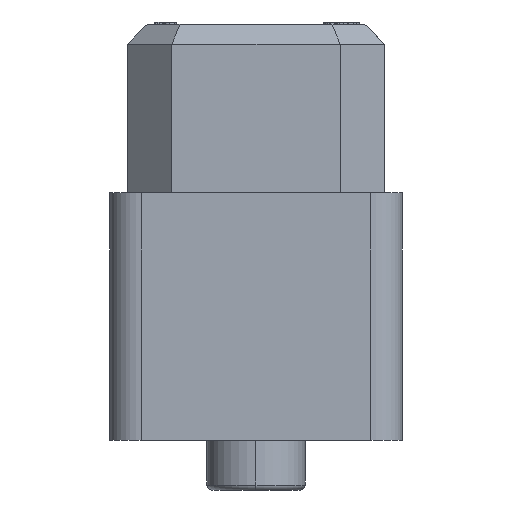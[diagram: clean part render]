
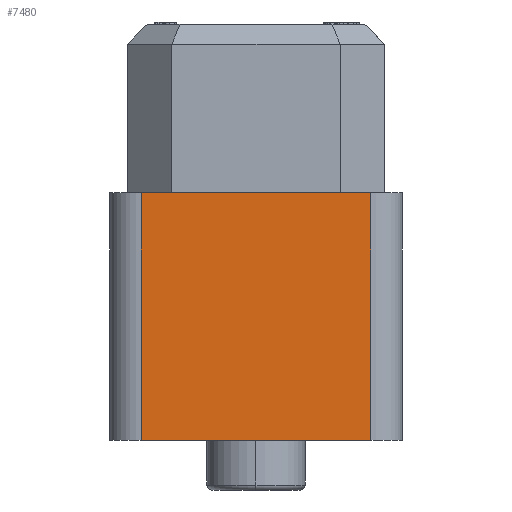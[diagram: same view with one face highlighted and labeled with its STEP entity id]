
A CAD part, left-side view. The second image highlights one B-rep face of the part: STEP entity #7480.
In plain terms, the highlighted planar face has unit normal (-1, 0, 0).
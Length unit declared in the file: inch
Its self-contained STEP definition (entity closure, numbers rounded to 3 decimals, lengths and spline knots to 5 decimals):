
#610 = EDGE_CURVE ( 'NONE', #3834, #2154, #3127, .T. ) ;
#800 = EDGE_CURVE ( 'NONE', #5492, #5569, #8446, .T. ) ;
#919 = EDGE_CURVE ( 'NONE', #2154, #5569, #2559, .T. ) ;
#938 = EDGE_CURVE ( 'NONE', #5492, #3834, #7199, .T. ) ;
#1724 = VECTOR ( 'NONE', #5170, 39.37008 ) ;
#1834 = VECTOR ( 'NONE', #3104, 39.37008 ) ;
#1864 = FACE_OUTER_BOUND ( 'NONE', #4221, .T. ) ;
#2115 = DIRECTION ( 'NONE',  ( 0., -1., 0. ) ) ;
#2154 = VERTEX_POINT ( 'NONE', #8194 ) ;
#2559 = LINE ( 'NONE', #3480, #3939 ) ;
#2698 = CARTESIAN_POINT ( 'NONE',  ( 0., 0.527, 0. ) ) ;
#2800 = ORIENTED_EDGE ( 'NONE', *, *, #938, .T. ) ;
#3104 = DIRECTION ( 'NONE',  ( 0., 0., -1. ) ) ;
#3127 = LINE ( 'NONE', #4947, #4887 ) ;
#3179 = CARTESIAN_POINT ( 'NONE',  ( 0., 0.527, 0.5 ) ) ;
#3196 = CARTESIAN_POINT ( 'NONE',  ( 0., 0.527, 0.5 ) ) ;
#3480 = CARTESIAN_POINT ( 'NONE',  ( 0., 0.063, 0.5 ) ) ;
#3538 = DIRECTION ( 'NONE',  ( 0., 0., 1. ) ) ;
#3635 = DIRECTION ( 'NONE',  ( 0., 0., -1. ) ) ;
#3834 = VERTEX_POINT ( 'NONE', #2698 ) ;
#3939 = VECTOR ( 'NONE', #3538, 39.37008 ) ;
#4221 = EDGE_LOOP ( 'NONE', ( #7889, #8766, #6585, #2800 ) ) ;
#4887 = VECTOR ( 'NONE', #2115, 39.37008 ) ;
#4947 = CARTESIAN_POINT ( 'NONE',  ( 0., 0., 0. ) ) ;
#4976 = CARTESIAN_POINT ( 'NONE',  ( 0., 0., 0.5 ) ) ;
#5170 = DIRECTION ( 'NONE',  ( 0., -1., 0. ) ) ;
#5492 = VERTEX_POINT ( 'NONE', #3196 ) ;
#5569 = VERTEX_POINT ( 'NONE', #7777 ) ;
#5613 = DIRECTION ( 'NONE',  ( 1., 0., 0. ) ) ;
#6585 = ORIENTED_EDGE ( 'NONE', *, *, #800, .F. ) ;
#6889 = CARTESIAN_POINT ( 'NONE',  ( 0., 0., 0.5 ) ) ;
#7199 = LINE ( 'NONE', #3179, #1834 ) ;
#7480 = ADVANCED_FACE ( 'NONE', ( #1864 ), #7541, .F. ) ;
#7541 = PLANE ( 'NONE',  #8645 ) ;
#7777 = CARTESIAN_POINT ( 'NONE',  ( 0., 0.063, 0.5 ) ) ;
#7889 = ORIENTED_EDGE ( 'NONE', *, *, #610, .T. ) ;
#8194 = CARTESIAN_POINT ( 'NONE',  ( 0., 0.063, 0. ) ) ;
#8446 = LINE ( 'NONE', #4976, #1724 ) ;
#8645 = AXIS2_PLACEMENT_3D ( 'NONE', #6889, #5613, #3635 ) ;
#8766 = ORIENTED_EDGE ( 'NONE', *, *, #919, .T. ) ;
